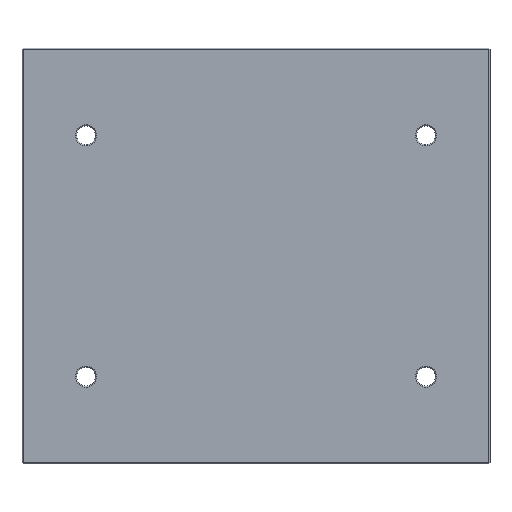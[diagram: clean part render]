
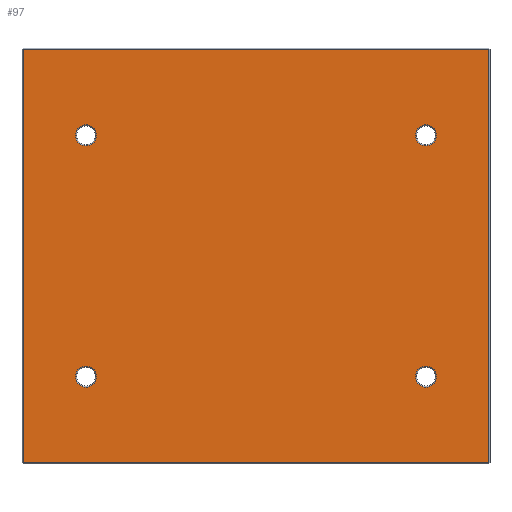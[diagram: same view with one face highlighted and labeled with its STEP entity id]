
A CAD part, front view. The second image highlights one B-rep face of the part: STEP entity #97.
In plain terms, the highlighted planar face has unit normal (0, -1, 0).
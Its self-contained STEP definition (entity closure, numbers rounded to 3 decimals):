
#32 = DIRECTION ( 'NONE',  ( 0., 0., 1. ) ) ;
#46 = CARTESIAN_POINT ( 'NONE',  ( -222., 0., 197. ) ) ;
#73 = PLANE ( 'NONE',  #389 ) ;
#75 = DIRECTION ( 'NONE',  ( 0., 0., 1. ) ) ;
#79 = CARTESIAN_POINT ( 'NONE',  ( -162., 0., -125. ) ) ;
#97 = ADVANCED_FACE ( 'NONE', ( #532, #621, #491, #554, #473 ), #73, .F. ) ;
#99 = DIRECTION ( 'NONE',  ( 0., 1., 0. ) ) ;
#103 = EDGE_LOOP ( 'NONE', ( #537, #1397 ) ) ;
#120 = CARTESIAN_POINT ( 'NONE',  ( -162., 0., -115. ) ) ;
#138 = CARTESIAN_POINT ( 'NONE',  ( 162., 0., -115. ) ) ;
#141 = DIRECTION ( 'NONE',  ( 0., 1., 0. ) ) ;
#175 = CARTESIAN_POINT ( 'NONE',  ( 0., 0., 0. ) ) ;
#178 = CIRCLE ( 'NONE', #241, 10. ) ;
#183 = DIRECTION ( 'NONE',  ( 0., 0., 1. ) ) ;
#241 = AXIS2_PLACEMENT_3D ( 'NONE', #1462, #783, #786 ) ;
#258 = EDGE_LOOP ( 'NONE', ( #753, #1339, #984, #1401 ) ) ;
#286 = EDGE_CURVE ( 'NONE', #713, #673, #178, .T. ) ;
#351 = VERTEX_POINT ( 'NONE', #903 ) ;
#353 = CIRCLE ( 'NONE', #1060, 10. ) ;
#364 = DIRECTION ( 'NONE',  ( 0., 1., 0. ) ) ;
#366 = CARTESIAN_POINT ( 'NONE',  ( 222., 0., -197. ) ) ;
#389 = AXIS2_PLACEMENT_3D ( 'NONE', #175, #364, #75 ) ;
#394 = EDGE_CURVE ( 'NONE', #1376, #406, #1606, .T. ) ;
#406 = VERTEX_POINT ( 'NONE', #932 ) ;
#443 = EDGE_CURVE ( 'NONE', #841, #1133, #1408, .T. ) ;
#472 = AXIS2_PLACEMENT_3D ( 'NONE', #138, #567, #183 ) ;
#473 = FACE_OUTER_BOUND ( 'NONE', #258, .T. ) ;
#489 = CARTESIAN_POINT ( 'NONE',  ( -162., 0., 115. ) ) ;
#491 = FACE_BOUND ( 'NONE', #1049, .T. ) ;
#502 = CIRCLE ( 'NONE', #1240, 10. ) ;
#504 = DIRECTION ( 'NONE',  ( 0., 0., 1. ) ) ;
#512 = ORIENTED_EDGE ( 'NONE', *, *, #648, .T. ) ;
#515 = EDGE_CURVE ( 'NONE', #406, #841, #1144, .T. ) ;
#532 = FACE_BOUND ( 'NONE', #584, .T. ) ;
#537 = ORIENTED_EDGE ( 'NONE', *, *, #1457, .T. ) ;
#554 = FACE_BOUND ( 'NONE', #103, .T. ) ;
#558 = DIRECTION ( 'NONE',  ( 0., 0., 1. ) ) ;
#567 = DIRECTION ( 'NONE',  ( 0., 1., 0. ) ) ;
#584 = EDGE_LOOP ( 'NONE', ( #695, #1414 ) ) ;
#614 = CIRCLE ( 'NONE', #1392, 10. ) ;
#618 = EDGE_CURVE ( 'NONE', #1479, #869, #723, .T. ) ;
#621 = FACE_BOUND ( 'NONE', #1418, .T. ) ;
#632 = DIRECTION ( 'NONE',  ( 1., 0., 0. ) ) ;
#640 = CARTESIAN_POINT ( 'NONE',  ( 0., 0., -197. ) ) ;
#647 = ORIENTED_EDGE ( 'NONE', *, *, #286, .T. ) ;
#648 = EDGE_CURVE ( 'NONE', #351, #1149, #614, .T. ) ;
#665 = CIRCLE ( 'NONE', #1162, 10. ) ;
#673 = VERTEX_POINT ( 'NONE', #944 ) ;
#689 = EDGE_CURVE ( 'NONE', #1149, #351, #502, .T. ) ;
#695 = ORIENTED_EDGE ( 'NONE', *, *, #771, .T. ) ;
#713 = VERTEX_POINT ( 'NONE', #1603 ) ;
#717 = AXIS2_PLACEMENT_3D ( 'NONE', #751, #765, #772 ) ;
#723 = CIRCLE ( 'NONE', #1485, 10. ) ;
#751 = CARTESIAN_POINT ( 'NONE',  ( -162., 0., -115. ) ) ;
#753 = ORIENTED_EDGE ( 'NONE', *, *, #394, .T. ) ;
#765 = DIRECTION ( 'NONE',  ( 0., 1., 0. ) ) ;
#771 = EDGE_CURVE ( 'NONE', #940, #1218, #353, .T. ) ;
#772 = DIRECTION ( 'NONE',  ( 0., 0., 1. ) ) ;
#783 = DIRECTION ( 'NONE',  ( 0., 1., 0. ) ) ;
#786 = DIRECTION ( 'NONE',  ( 0., 0., 1. ) ) ;
#841 = VERTEX_POINT ( 'NONE', #46 ) ;
#869 = VERTEX_POINT ( 'NONE', #79 ) ;
#903 = CARTESIAN_POINT ( 'NONE',  ( -162., 0., 105. ) ) ;
#913 = DIRECTION ( 'NONE',  ( 0., 1., 0. ) ) ;
#923 = CARTESIAN_POINT ( 'NONE',  ( 222., 0., 0. ) ) ;
#928 = DIRECTION ( 'NONE',  ( 0., 0., 1. ) ) ;
#932 = CARTESIAN_POINT ( 'NONE',  ( 222., 0., 197. ) ) ;
#940 = VERTEX_POINT ( 'NONE', #1604 ) ;
#944 = CARTESIAN_POINT ( 'NONE',  ( 162., 0., 105. ) ) ;
#956 = CARTESIAN_POINT ( 'NONE',  ( 162., 0., -115. ) ) ;
#984 = ORIENTED_EDGE ( 'NONE', *, *, #443, .T. ) ;
#985 = EDGE_CURVE ( 'NONE', #1218, #940, #1448, .T. ) ;
#987 = CARTESIAN_POINT ( 'NONE',  ( -222., 0., 0. ) ) ;
#1049 = EDGE_LOOP ( 'NONE', ( #512, #1660 ) ) ;
#1051 = CARTESIAN_POINT ( 'NONE',  ( -162., 0., -105. ) ) ;
#1060 = AXIS2_PLACEMENT_3D ( 'NONE', #956, #913, #32 ) ;
#1062 = CIRCLE ( 'NONE', #717, 10. ) ;
#1077 = DIRECTION ( 'NONE',  ( 0., 0., -1. ) ) ;
#1092 = CARTESIAN_POINT ( 'NONE',  ( 162., 0., -105. ) ) ;
#1109 = VECTOR ( 'NONE', #632, 1000. ) ;
#1133 = VERTEX_POINT ( 'NONE', #1292 ) ;
#1142 = VECTOR ( 'NONE', #1287, 1000. ) ;
#1144 = LINE ( 'NONE', #1278, #1142 ) ;
#1149 = VERTEX_POINT ( 'NONE', #1153 ) ;
#1153 = CARTESIAN_POINT ( 'NONE',  ( -162., 0., 125. ) ) ;
#1162 = AXIS2_PLACEMENT_3D ( 'NONE', #1342, #1623, #1647 ) ;
#1211 = LINE ( 'NONE', #640, #1109 ) ;
#1218 = VERTEX_POINT ( 'NONE', #1092 ) ;
#1240 = AXIS2_PLACEMENT_3D ( 'NONE', #1248, #1273, #1244 ) ;
#1244 = DIRECTION ( 'NONE',  ( 0., 0., 1. ) ) ;
#1248 = CARTESIAN_POINT ( 'NONE',  ( -162., 0., 115. ) ) ;
#1262 = EDGE_CURVE ( 'NONE', #673, #713, #665, .T. ) ;
#1273 = DIRECTION ( 'NONE',  ( 0., 1., 0. ) ) ;
#1278 = CARTESIAN_POINT ( 'NONE',  ( 0., 0., 197. ) ) ;
#1287 = DIRECTION ( 'NONE',  ( -1., 0., 0. ) ) ;
#1292 = CARTESIAN_POINT ( 'NONE',  ( -222., 0., -197. ) ) ;
#1339 = ORIENTED_EDGE ( 'NONE', *, *, #515, .T. ) ;
#1342 = CARTESIAN_POINT ( 'NONE',  ( 162., 0., 115. ) ) ;
#1376 = VERTEX_POINT ( 'NONE', #366 ) ;
#1385 = VECTOR ( 'NONE', #1077, 1000. ) ;
#1392 = AXIS2_PLACEMENT_3D ( 'NONE', #489, #141, #504 ) ;
#1397 = ORIENTED_EDGE ( 'NONE', *, *, #618, .T. ) ;
#1401 = ORIENTED_EDGE ( 'NONE', *, *, #1455, .T. ) ;
#1408 = LINE ( 'NONE', #987, #1385 ) ;
#1414 = ORIENTED_EDGE ( 'NONE', *, *, #985, .T. ) ;
#1418 = EDGE_LOOP ( 'NONE', ( #1503, #647 ) ) ;
#1448 = CIRCLE ( 'NONE', #472, 10. ) ;
#1455 = EDGE_CURVE ( 'NONE', #1133, #1376, #1211, .T. ) ;
#1457 = EDGE_CURVE ( 'NONE', #869, #1479, #1062, .T. ) ;
#1462 = CARTESIAN_POINT ( 'NONE',  ( 162., 0., 115. ) ) ;
#1479 = VERTEX_POINT ( 'NONE', #1051 ) ;
#1485 = AXIS2_PLACEMENT_3D ( 'NONE', #120, #99, #558 ) ;
#1503 = ORIENTED_EDGE ( 'NONE', *, *, #1262, .T. ) ;
#1603 = CARTESIAN_POINT ( 'NONE',  ( 162., 0., 125. ) ) ;
#1604 = CARTESIAN_POINT ( 'NONE',  ( 162., 0., -125. ) ) ;
#1605 = VECTOR ( 'NONE', #928, 1000. ) ;
#1606 = LINE ( 'NONE', #923, #1605 ) ;
#1623 = DIRECTION ( 'NONE',  ( 0., 1., 0. ) ) ;
#1647 = DIRECTION ( 'NONE',  ( 0., 0., 1. ) ) ;
#1660 = ORIENTED_EDGE ( 'NONE', *, *, #689, .T. ) ;
